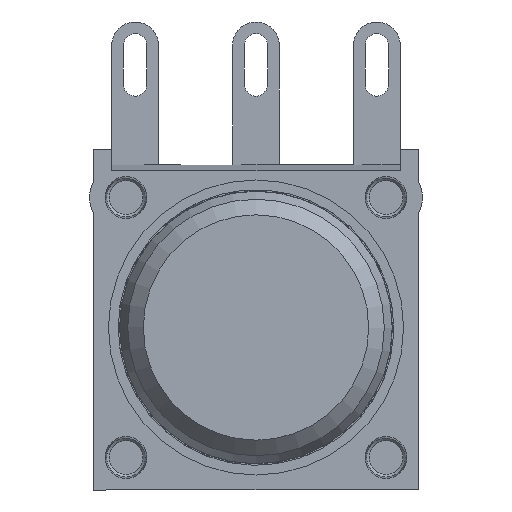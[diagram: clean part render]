
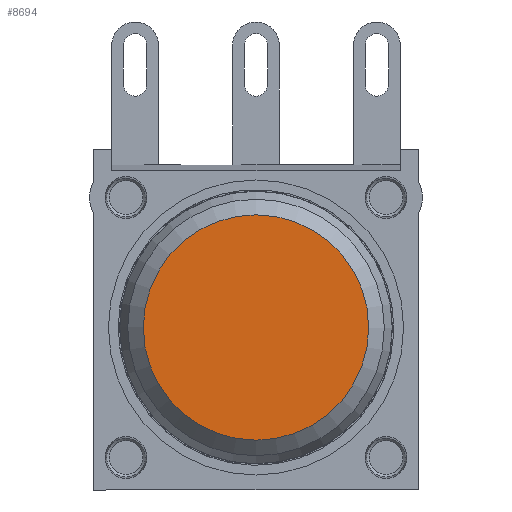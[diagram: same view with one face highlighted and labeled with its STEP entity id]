
A CAD part, left-side view. The second image highlights one B-rep face of the part: STEP entity #8694.
In plain terms, the highlighted planar face has unit normal (-1, 0, 0).
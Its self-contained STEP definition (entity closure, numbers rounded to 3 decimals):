
#1544=PLANE('',#9178);
#2792=ORIENTED_EDGE('',*,*,#4807,.T.);
#4807=EDGE_CURVE('',#5883,#5883,#6496,.T.);
#5883=VERTEX_POINT('',#14077);
#6496=CIRCLE('',#9177,4.334);
#6918=EDGE_LOOP('',(#2792));
#7507=FACE_BOUND('',#6918,.T.);
#8694=ADVANCED_FACE('',(#7507),#1544,.T.);
#9177=AXIS2_PLACEMENT_3D('',#14076,#10247,#10248);
#9178=AXIS2_PLACEMENT_3D('',#14078,#10249,#10250);
#10247=DIRECTION('',(-1.,0.,0.));
#10248=DIRECTION('',(0.,0.172,0.985));
#10249=DIRECTION('',(-1.,0.,0.));
#10250=DIRECTION('',(0.,0.172,0.985));
#14076=CARTESIAN_POINT('',(-12.854,0.,0.));
#14077=CARTESIAN_POINT('',(-12.854,0.746,4.269));
#14078=CARTESIAN_POINT('',(-12.854,0.,0.));
